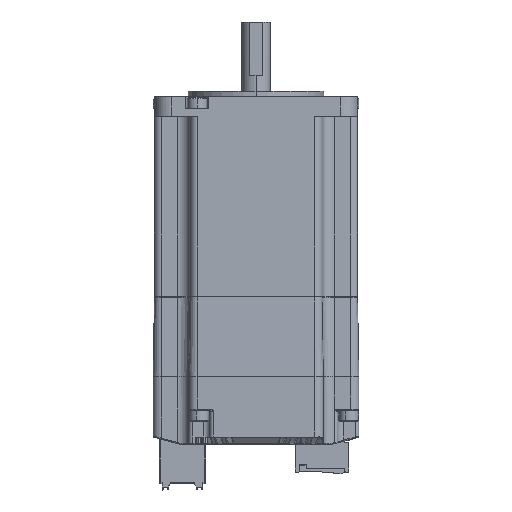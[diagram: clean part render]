
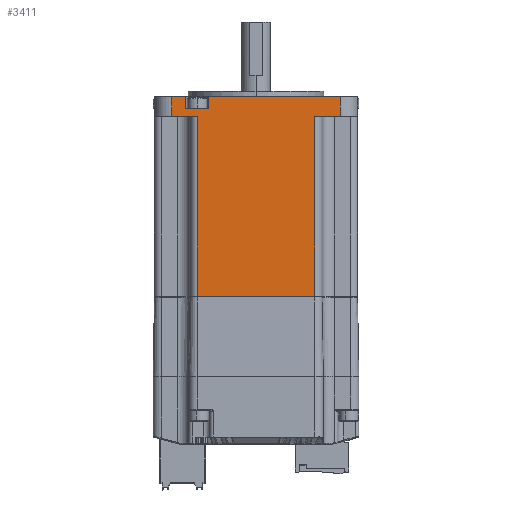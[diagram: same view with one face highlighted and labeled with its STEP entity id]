
A CAD part, top view. The second image highlights one B-rep face of the part: STEP entity #3411.
In plain terms, the highlighted planar face has unit normal (0, 0, 1).
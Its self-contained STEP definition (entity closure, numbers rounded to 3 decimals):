
#178=DIRECTION('',(-1.,0.,0.));
#179=VECTOR('',#178,6.4);
#180=CARTESIAN_POINT('',(15.2,-3.4,0.));
#181=LINE('',#180,#179);
#303=DIRECTION('',(0.,1.,0.));
#304=VECTOR('',#303,3.4);
#305=CARTESIAN_POINT('',(8.8,-3.4,0.));
#306=LINE('',#305,#304);
#307=DIRECTION('',(-1.,0.,0.));
#308=VECTOR('',#307,3.87);
#309=CARTESIAN_POINT('',(8.8,0.,0.));
#310=LINE('',#309,#308);
#311=DIRECTION('',(0.,-1.,0.));
#312=VECTOR('',#311,3.4);
#313=CARTESIAN_POINT('',(15.2,0.,0.));
#314=LINE('',#313,#312);
#315=DIRECTION('',(-1.,0.,0.));
#316=VECTOR('',#315,36.87);
#317=CARTESIAN_POINT('',(52.07,0.,0.));
#318=LINE('',#317,#316);
#324=DIRECTION('',(-1.,0.,0.));
#325=VECTOR('',#324,7.07);
#326=CARTESIAN_POINT('',(52.07,-5.5,0.));
#327=LINE('',#326,#325);
#428=DIRECTION('',(-1.,0.,0.));
#429=VECTOR('',#428,33.);
#430=CARTESIAN_POINT('',(45.,-56.,0.));
#431=LINE('',#430,#429);
#1414=DIRECTION('',(0.,-1.,0.));
#1415=VECTOR('',#1414,5.5);
#1416=CARTESIAN_POINT('',(4.93,0.,0.));
#1417=LINE('',#1416,#1415);
#1433=DIRECTION('',(-1.,0.,0.));
#1434=VECTOR('',#1433,7.07);
#1435=CARTESIAN_POINT('',(12.,-5.5,0.));
#1436=LINE('',#1435,#1434);
#1484=DIRECTION('',(0.,-1.,0.));
#1485=VECTOR('',#1484,50.5);
#1486=CARTESIAN_POINT('',(12.,-5.5,0.));
#1487=LINE('',#1486,#1485);
#1516=DIRECTION('',(0.,1.,0.));
#1517=VECTOR('',#1516,5.5);
#1518=CARTESIAN_POINT('',(52.07,-5.5,0.));
#1519=LINE('',#1518,#1517);
#1851=DIRECTION('',(0.,1.,0.));
#1852=VECTOR('',#1851,50.5);
#1853=CARTESIAN_POINT('',(45.,-56.,0.));
#1854=LINE('',#1853,#1852);
#2374=CARTESIAN_POINT('',(15.2,0.,0.));
#2375=VERTEX_POINT('',#2374);
#2398=CARTESIAN_POINT('',(15.2,-3.4,0.));
#2399=VERTEX_POINT('',#2398);
#2662=CARTESIAN_POINT('',(52.07,-5.5,0.));
#2663=CARTESIAN_POINT('',(45.,-5.5,0.));
#2664=VERTEX_POINT('',#2662);
#2665=VERTEX_POINT('',#2663);
#2666=CARTESIAN_POINT('',(45.,-56.,0.));
#2667=VERTEX_POINT('',#2666);
#2668=CARTESIAN_POINT('',(12.,-5.5,0.));
#2669=CARTESIAN_POINT('',(12.,-56.,0.));
#2670=VERTEX_POINT('',#2668);
#2671=VERTEX_POINT('',#2669);
#2672=CARTESIAN_POINT('',(4.93,-5.5,0.));
#2673=VERTEX_POINT('',#2672);
#2674=CARTESIAN_POINT('',(4.93,0.,0.));
#2675=VERTEX_POINT('',#2674);
#2676=CARTESIAN_POINT('',(52.07,0.,0.));
#2677=VERTEX_POINT('',#2676);
#2898=CARTESIAN_POINT('',(8.8,0.,0.));
#2899=VERTEX_POINT('',#2898);
#2900=CARTESIAN_POINT('',(8.8,-3.4,0.));
#2901=VERTEX_POINT('',#2900);
#3384=CARTESIAN_POINT('',(28.5,-28.,0.));
#3385=DIRECTION('',(0.,0.,1.));
#3386=DIRECTION('',(1.,0.,0.));
#3387=AXIS2_PLACEMENT_3D('',#3384,#3385,#3386);
#3388=PLANE('',#3387);
#3390=ORIENTED_EDGE('',*,*,#3389,.T.);
#3392=ORIENTED_EDGE('',*,*,#3391,.F.);
#3394=ORIENTED_EDGE('',*,*,#3393,.T.);
#3396=ORIENTED_EDGE('',*,*,#3395,.F.);
#3398=ORIENTED_EDGE('',*,*,#3397,.T.);
#3400=ORIENTED_EDGE('',*,*,#3399,.F.);
#3401=ORIENTED_EDGE('',*,*,#3285,.F.);
#3402=ORIENTED_EDGE('',*,*,#3372,.F.);
#3403=ORIENTED_EDGE('',*,*,#3250,.F.);
#3405=ORIENTED_EDGE('',*,*,#3404,.F.);
#3406=ORIENTED_EDGE('',*,*,#3327,.F.);
#3408=ORIENTED_EDGE('',*,*,#3407,.F.);
#3409=EDGE_LOOP('',(#3390,#3392,#3394,#3396,#3398,#3400,#3401,#3402,#3403,#3405,
#3406,#3408));
#3410=FACE_OUTER_BOUND('',#3409,.F.);
#3411=ADVANCED_FACE('',(#3410),#3388,.T.);
#3250=EDGE_CURVE('',#2399,#2901,#181,.T.);
#3285=EDGE_CURVE('',#2899,#2675,#310,.T.);
#3327=EDGE_CURVE('',#2677,#2375,#318,.T.);
#3372=EDGE_CURVE('',#2901,#2899,#306,.T.);
#3389=EDGE_CURVE('',#2664,#2665,#327,.T.);
#3391=EDGE_CURVE('',#2667,#2665,#1854,.T.);
#3393=EDGE_CURVE('',#2667,#2671,#431,.T.);
#3395=EDGE_CURVE('',#2670,#2671,#1487,.T.);
#3397=EDGE_CURVE('',#2670,#2673,#1436,.T.);
#3399=EDGE_CURVE('',#2675,#2673,#1417,.T.);
#3404=EDGE_CURVE('',#2375,#2399,#314,.T.);
#3407=EDGE_CURVE('',#2664,#2677,#1519,.T.);
